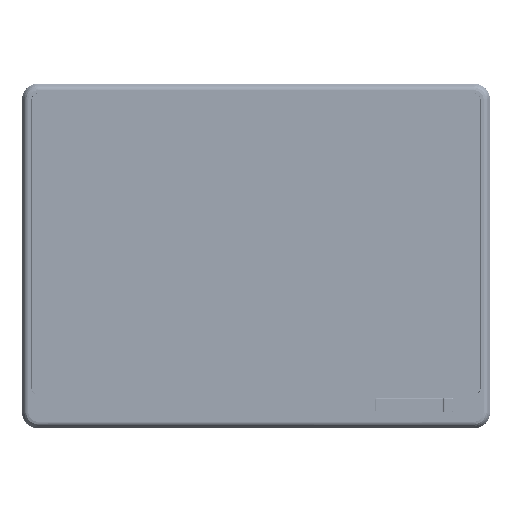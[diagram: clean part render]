
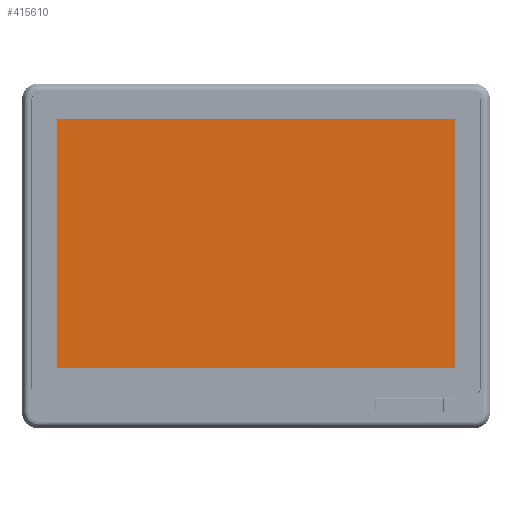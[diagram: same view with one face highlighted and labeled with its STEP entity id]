
A CAD part, top view. The second image highlights one B-rep face of the part: STEP entity #415610.
In plain terms, the highlighted planar face has unit normal (0, 0, 1).
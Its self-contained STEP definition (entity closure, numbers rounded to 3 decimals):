
#6177 = CARTESIAN_POINT ( 'NONE',  ( 98.859, 88.962, 321.554 ) ) ;
#17825 = ORIENTED_EDGE ( 'NONE', *, *, #158035, .F. ) ;
#41172 = EDGE_CURVE ( 'NONE', #463273, #62239, #492163, .T. ) ;
#42878 = ORIENTED_EDGE ( 'NONE', *, *, #369947, .F. ) ;
#49547 = DIRECTION ( 'NONE',  ( 0., 1., 0. ) ) ;
#51580 = EDGE_LOOP ( 'NONE', ( #133534, #42878, #17825, #577784 ) ) ;
#62239 = VERTEX_POINT ( 'NONE', #286591 ) ;
#108217 = ORIENTED_EDGE ( 'NONE', *, *, #258185, .T. ) ;
#133534 = ORIENTED_EDGE ( 'NONE', *, *, #400419, .F. ) ;
#139840 = CARTESIAN_POINT ( 'NONE',  ( -163.341, -75.238, 321.554 ) ) ;
#148596 = CARTESIAN_POINT ( 'NONE',  ( 98.859, -75.238, 321.554 ) ) ;
#158035 = EDGE_CURVE ( 'NONE', #478122, #507128, #586344, .T. ) ;
#177088 = DIRECTION ( 'NONE',  ( 0., 0., -1. ) ) ;
#187331 = DIRECTION ( 'NONE',  ( -1., 0., 0. ) ) ;
#200093 = CARTESIAN_POINT ( 'NONE',  ( 98.859, 88.962, 321.554 ) ) ;
#201022 = VECTOR ( 'NONE', #187331, 1000. ) ;
#202247 = AXIS2_PLACEMENT_3D ( 'NONE', #229823, #548211, #275510 ) ;
#204841 = CIRCLE ( 'NONE', #406629, 0.25 ) ;
#215281 = LINE ( 'NONE', #139840, #201022 ) ;
#216674 = DIRECTION ( 'NONE',  ( 0., 0., 1. ) ) ;
#229823 = CARTESIAN_POINT ( 'NONE',  ( -32.241, 6.862, 321.554 ) ) ;
#237343 = VECTOR ( 'NONE', #49547, 1000. ) ;
#241948 = DIRECTION ( 'NONE',  ( 0., -1., 0. ) ) ;
#258185 = EDGE_CURVE ( 'NONE', #62239, #463273, #204841, .T. ) ;
#267977 = FACE_BOUND ( 'NONE', #462991, .T. ) ;
#274272 = CARTESIAN_POINT ( 'NONE',  ( -163.341, 88.962, 321.554 ) ) ;
#275510 = DIRECTION ( 'NONE',  ( 1., 0., 0. ) ) ;
#286591 = CARTESIAN_POINT ( 'NONE',  ( -32.491, 6.862, 321.554 ) ) ;
#306266 = PLANE ( 'NONE',  #503237 ) ;
#314049 = EDGE_CURVE ( 'NONE', #316754, #478122, #215281, .T. ) ;
#316754 = VERTEX_POINT ( 'NONE', #559495 ) ;
#320559 = CARTESIAN_POINT ( 'NONE',  ( -163.341, 88.962, 321.554 ) ) ;
#327131 = LINE ( 'NONE', #148596, #555130 ) ;
#366611 = CARTESIAN_POINT ( 'NONE',  ( -31.991, 6.862, 321.554 ) ) ;
#369947 = EDGE_CURVE ( 'NONE', #507128, #558967, #588481, .T. ) ;
#370223 = DIRECTION ( 'NONE',  ( 1., 0., 0. ) ) ;
#400419 = EDGE_CURVE ( 'NONE', #558967, #316754, #327131, .T. ) ;
#406629 = AXIS2_PLACEMENT_3D ( 'NONE', #449870, #177088, #495559 ) ;
#415610 = ADVANCED_FACE ( 'NONE', ( #495872, #267977 ), #306266, .T. ) ;
#449870 = CARTESIAN_POINT ( 'NONE',  ( -32.241, 6.862, 321.554 ) ) ;
#459974 = ORIENTED_EDGE ( 'NONE', *, *, #41172, .T. ) ;
#462991 = EDGE_LOOP ( 'NONE', ( #108217, #459974 ) ) ;
#463273 = VERTEX_POINT ( 'NONE', #366611 ) ;
#468062 = CARTESIAN_POINT ( 'NONE',  ( -163.341, -75.238, 321.554 ) ) ;
#478122 = VERTEX_POINT ( 'NONE', #468062 ) ;
#489353 = CARTESIAN_POINT ( 'NONE',  ( -479.774, -247.622, 321.554 ) ) ;
#492163 = CIRCLE ( 'NONE', #202247, 0.25 ) ;
#495559 = DIRECTION ( 'NONE',  ( 1., 0., 0. ) ) ;
#495872 = FACE_OUTER_BOUND ( 'NONE', #51580, .T. ) ;
#503237 = AXIS2_PLACEMENT_3D ( 'NONE', #489353, #216674, #535077 ) ;
#507128 = VERTEX_POINT ( 'NONE', #320559 ) ;
#535077 = DIRECTION ( 'NONE',  ( 1., 0., 0. ) ) ;
#548211 = DIRECTION ( 'NONE',  ( 0., 0., -1. ) ) ;
#555130 = VECTOR ( 'NONE', #241948, 1000. ) ;
#558967 = VERTEX_POINT ( 'NONE', #200093 ) ;
#559495 = CARTESIAN_POINT ( 'NONE',  ( 98.859, -75.238, 321.554 ) ) ;
#574212 = VECTOR ( 'NONE', #370223, 1000. ) ;
#577784 = ORIENTED_EDGE ( 'NONE', *, *, #314049, .F. ) ;
#586344 = LINE ( 'NONE', #274272, #237343 ) ;
#588481 = LINE ( 'NONE', #6177, #574212 ) ;
